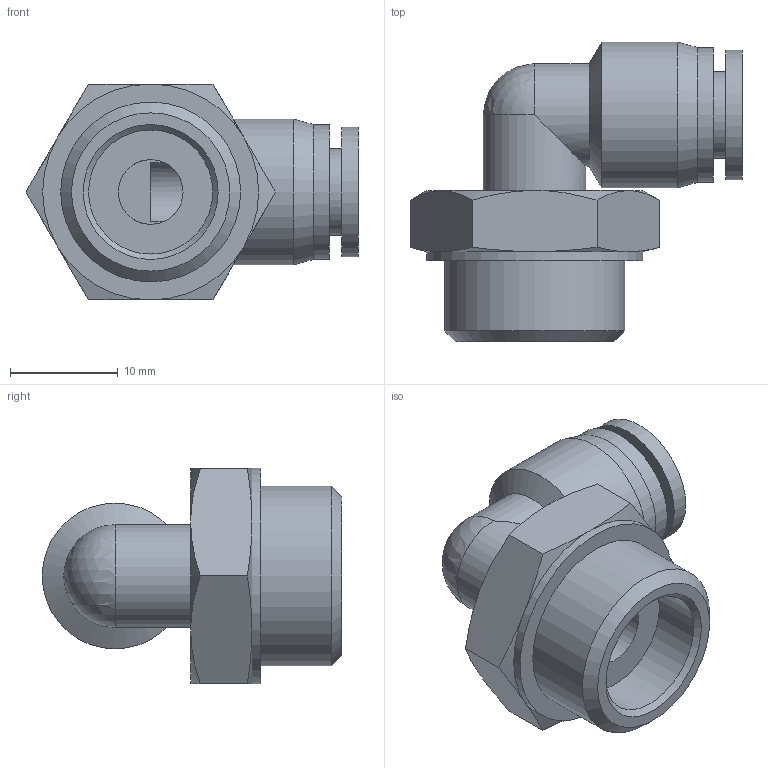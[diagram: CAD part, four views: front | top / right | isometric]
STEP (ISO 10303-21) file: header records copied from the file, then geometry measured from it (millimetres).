
FILE_DESCRIPTION(/* description */ (''),/* implementation_level */ '2;1');
FILE_NAME(/* name */ 'S:\UTecnico\ArchivioUT\Speciali Clienti\Speciali KONFIT\DISEGNI 3D\RP\RP 72\RP723806.stp',/* time_stamp */ '2013-07-05T09:12:03+02:00',/* author */ ('UT5'),/* organization */ (''),/* preprocessor_version */ 'ST-DEVELOPER v15.2',/* originating_system */ 'Autodesk Inventor 2014',/* authorisation */ '');
FILE_SCHEMA (('AUTOMOTIVE_DESIGN { 1 0 10303 214 3 1 1 }'));
Length unit declared in the file: millimetre
Products named in the file (1): RP723806
Bounding box: 30.75 x 27.75 x 20 mm (x, y, z)
Volume: 4924.8 mm3; surface area: 3368.6 mm2
Topology: 1 solids, 1 shells, 43 faces, 94 edges, 56 vertices
Faces by surface type: cone 16, plane 15, cylinder 11, sphere 1
Full cylindrical faces by diameter (mm): 6 x2, 8 x1, 9.5 x2, 11.5 x1, 12 x1, 12.5 x1, 13.5 x1, 16.662 x1, 20 x1
Entity records: 1062 total; most frequent: CARTESIAN_POINT 215, DIRECTION 175, ORIENTED_EDGE 144, AXIS2_PLACEMENT_3D 83, EDGE_CURVE 72, EDGE_LOOP 65, VERTEX_POINT 51, ADVANCED_FACE 43
